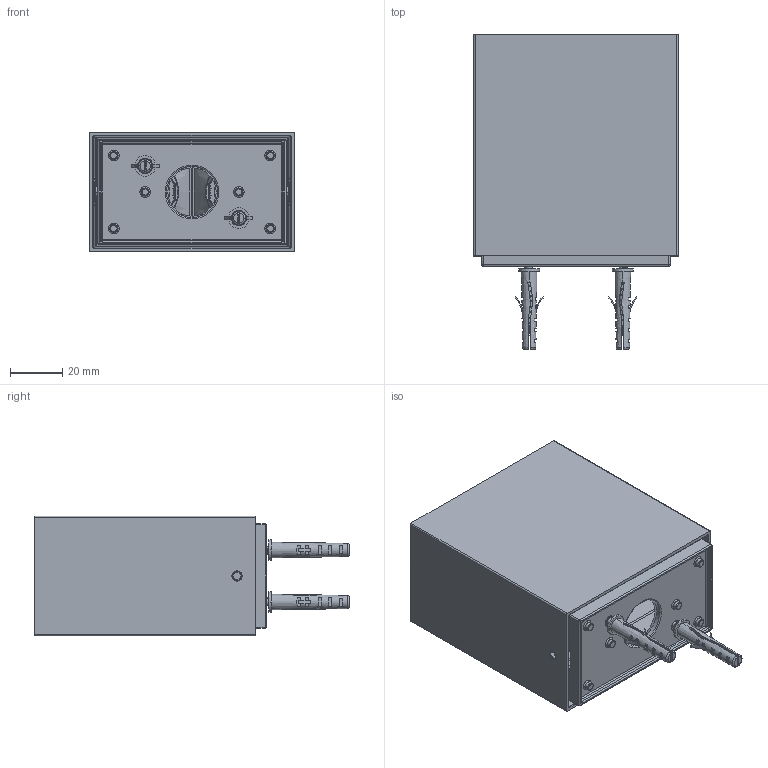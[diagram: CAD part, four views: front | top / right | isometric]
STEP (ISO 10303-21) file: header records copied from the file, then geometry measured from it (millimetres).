
FILE_DESCRIPTION((''),'2;1');
FILE_NAME('2_SW0001','2025-07-23T12:24:15',('Piccioli'),(''),'CREO PARAMETRIC BY PTC INC, 2025010','CREO PARAMETRIC BY PTC INC, 2025010','');
FILE_SCHEMA(('CONFIG_CONTROL_DESIGN'));
Products named in the file (1): 2_SW0001
Bounding box: 78.5 x 120.9 x 46 mm (x, y, z)
Surface area: 72750.8 mm2 (no closed solid volume)
Topology: 0 solids, 36 shells, 1146 faces, 3261 edges, 2134 vertices
Faces by surface type: bspline 360, plane 320, cylinder 260, torus 86, cone 62, sphere 42, extrusion 16
Entity records: 69342 total; most frequent: CARTESIAN_POINT 43353, ORIENTED_EDGE 5754, DIRECTION 4417, EDGE_CURVE 3257, VERTEX_POINT 2134, AXIS2_PLACEMENT_3D 1734, B_SPLINE_CURVE_WITH_KNOTS 1376, EDGE_LOOP 1215
